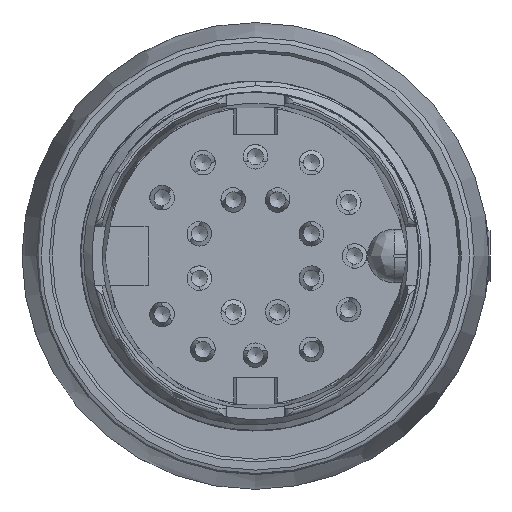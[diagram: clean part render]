
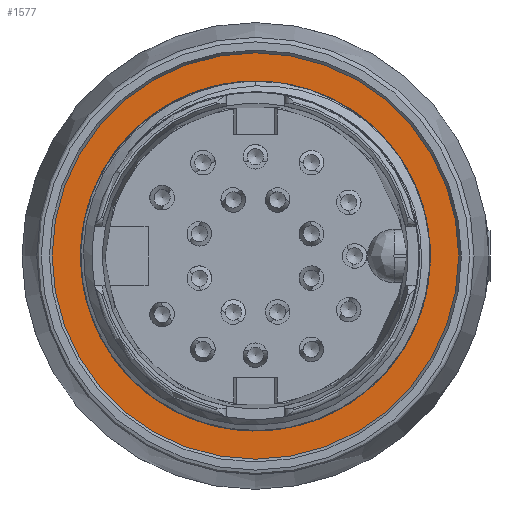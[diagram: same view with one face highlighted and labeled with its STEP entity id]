
A CAD part, left-side view. The second image highlights one B-rep face of the part: STEP entity #1577.
In plain terms, the highlighted planar face has unit normal (-1, 0, 0).
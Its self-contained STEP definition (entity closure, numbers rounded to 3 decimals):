
#432=FACE_BOUND('',#2976,.T.);
#433=FACE_BOUND('',#2977,.T.);
#1217=PLANE('',#10705);
#1577=ADVANCED_FACE('',(#432,#433),#1217,.F.);
#2976=EDGE_LOOP('',(#5368));
#2977=EDGE_LOOP('',(#5369));
#3849=CIRCLE('',#10488,7.);
#3955=CIRCLE('',#10697,8.707);
#5368=ORIENTED_EDGE('',*,*,#8282,.T.);
#5369=ORIENTED_EDGE('',*,*,#8520,.T.);
#7226=VERTEX_POINT('',#15859);
#7386=VERTEX_POINT('',#17798);
#8282=EDGE_CURVE('',#7226,#7226,#3849,.T.);
#8520=EDGE_CURVE('',#7386,#7386,#3955,.T.);
#10488=AXIS2_PLACEMENT_3D('',#15858,#12193,#12194);
#10697=AXIS2_PLACEMENT_3D('',#17797,#12713,#12714);
#10705=AXIS2_PLACEMENT_3D('',#17806,#12729,#12730);
#12193=DIRECTION('',(1.,0.,0.));
#12194=DIRECTION('',(0.,0.,-1.));
#12713=DIRECTION('',(-1.,0.,0.));
#12714=DIRECTION('',(0.,0.,-1.));
#12729=DIRECTION('',(1.,0.,0.));
#12730=DIRECTION('',(0.,0.,-1.));
#15858=CARTESIAN_POINT('',(9.5,0.,0.));
#15859=CARTESIAN_POINT('',(9.5,0.,-7.));
#17797=CARTESIAN_POINT('',(9.5,0.,0.));
#17798=CARTESIAN_POINT('',(9.5,0.,-8.707));
#17806=CARTESIAN_POINT('',(9.5,0.,0.));
